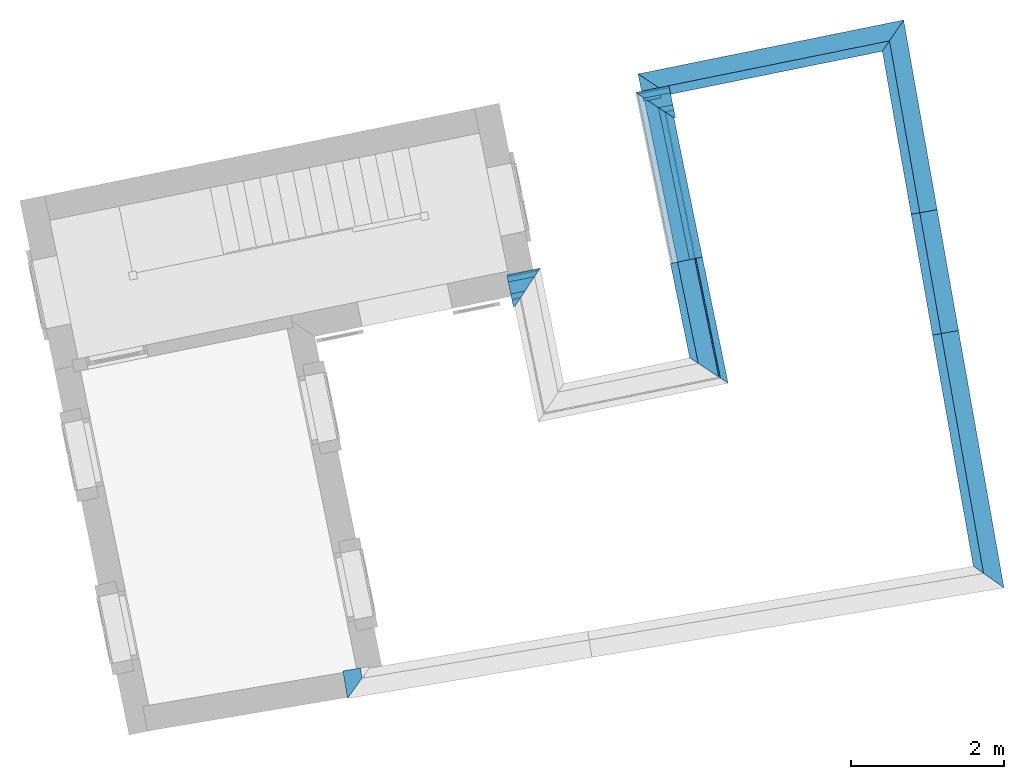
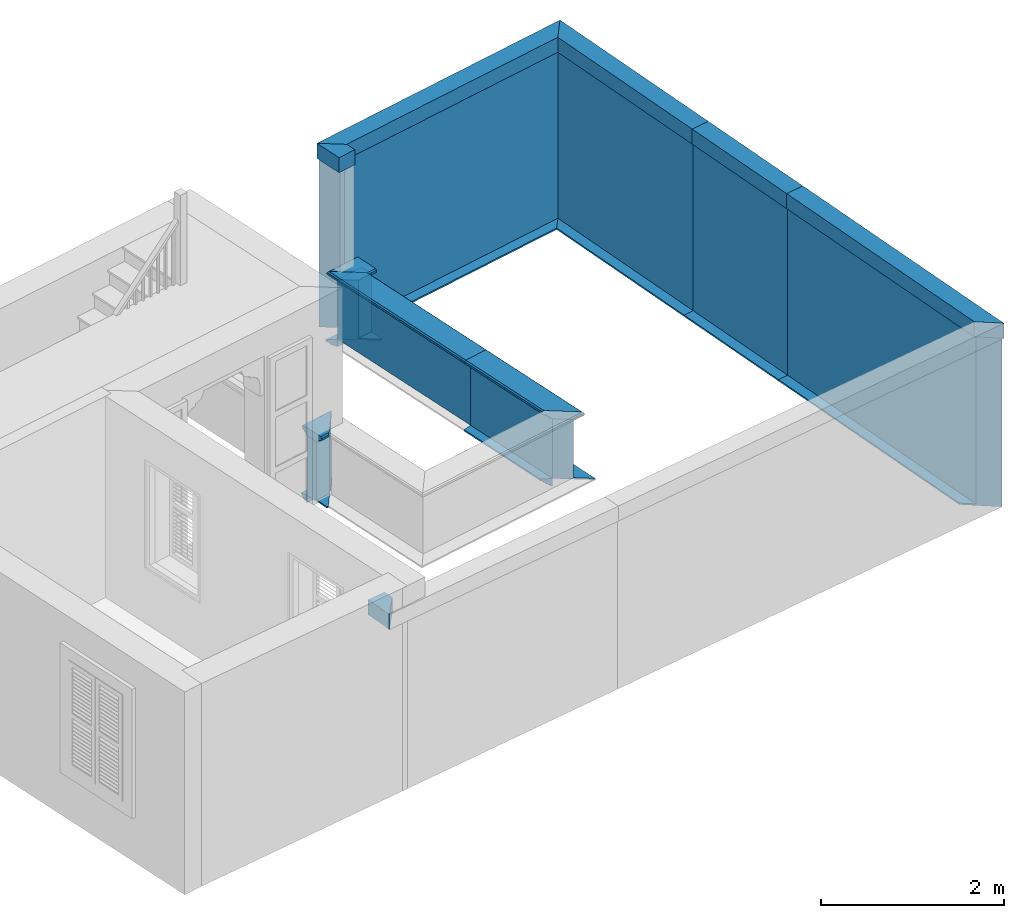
# One storey, part 7 of 7: 21 walls.
"""IFC4 building model written with IfcOpenShell, lengths in metres."""

from ifc_helpers import new_model, si_unit, frame, origin_with_axes, place, context, subcontext, project, spatial, polyline, outline, extrude, clip, halfspace, material_profile, profile_set, profile_usage, type_object, element, save


model = new_model("IFC4")

# Units and contexts
model_context = context("Model", 3, world=origin_with_axes())
body_context = subcontext(model_context, "Body", "Model", "MODEL_VIEW")
ifc_project = project(units=[si_unit("PLANEANGLEUNIT", "RADIAN"), si_unit("MASSUNIT", "GRAM", prefix="KILO"), si_unit("FORCEUNIT", "NEWTON", prefix="KILO"), si_unit("LENGTHUNIT", "METRE"), si_unit("AREAUNIT", "SQUARE_METRE"), si_unit("VOLUMEUNIT", "CUBIC_METRE")], contexts=[model_context, model_context])

# Site, building, storey
site_placement = place(None, origin_with_axes())
site = spatial("IfcSite", under=ifc_project, at=site_placement, Name="Site plot-7", CompositionType="ELEMENT")
building_placement = place(None, origin_with_axes())
building = spatial("IfcBuilding", under=site, at=building_placement, Name="Building plot-7", CompositionType="ELEMENT")
storey_placement = place(None, frame((0.0, 0.0, 3.0), z_axis=(0.0, 0.0, 1.0), x_axis=(1.0, 0.0, 0.0)))
storey = spatial("IfcBuildingStorey", under=building, at=storey_placement, Name="plot-7 1", CompositionType="ELEMENT", Elevation=3.0)

# Walls
ifc_material_profile_1 = material_profile(None, outline(polyline([(0.25, 0.0), (0.25, 2.245), (0.05, 2.245), (0.05, 0.02), (-0.08, 0.02), (-0.08, 0.0), (0.25, 0.0)])))
ifc_profile_set_1 = profile_set([ifc_material_profile_1])
ifc_profile_usage_1 = profile_usage(ifc_profile_set_1)
wall_type_1 = type_object("IfcWallType", Name="parapet party_0", PredefinedType="PARAPET", material=ifc_profile_set_1)
wall_1_placement = place(storey_placement, frame((-0.826350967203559, 10.4115691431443, 0.0), z_axis=(0.174013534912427, -0.984743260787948, 0.0), x_axis=(0.984743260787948, 0.174013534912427, 0.0)))
element("IfcWall", 1, at=wall_1_placement, inside=storey, type_object=wall_type_1, material=ifc_profile_usage_1, Name="parapet party_0", context=body_context, shape_type="Clipping", body=[
    clip(clip(extrude(outline(polyline([(0.25, 0.0), (0.25, 2.245), (0.05, 2.245), (0.05, 0.02), (-0.08, 0.02), (-0.08, 0.0), (0.25, 0.0)])), origin_with_axes(), (0.0, 0.0, 1.0), 5.14519232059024), halfspace(frame((0.0, 0.0, 4.14519232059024), z_axis=(0.709871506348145, 0.0, -0.704331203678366), x_axis=(0.0, 1.0, 0.0)), True)), halfspace(frame((0.0, 0.0, 1.0), z_axis=(-7.27366154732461e-16, 0.0, -1.0), x_axis=(0.0, 1.0, 0.0)), False)),
])
ifc_profile_usage_2 = profile_usage(ifc_profile_set_1)
wall_2_placement = place(storey_placement, frame((-1.10519241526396, 11.9895339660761, 0.0), z_axis=(0.174013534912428, -0.984743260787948, 0.0), x_axis=(0.984743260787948, 0.174013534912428, 0.0)))
element("IfcWall", 2, at=wall_2_placement, inside=storey, type_object=wall_type_1, material=ifc_profile_usage_2, Name="parapet party_0", context=body_context, shape_type="Clipping", body=[
    clip(clip(extrude(outline(polyline([(0.25, 0.0), (0.25, 2.245), (0.05, 2.245), (0.05, 0.02), (-0.08, 0.02), (-0.08, 0.0), (0.25, 0.0)])), origin_with_axes(), (0.0, 0.0, 1.0), 3.60241241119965), halfspace(frame((0.0, 0.0, 2.60241241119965), z_axis=(3.82856869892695e-16, 0.0, -1.0), x_axis=(0.0, 1.0, 0.0)), True)), halfspace(frame((0.0, 0.0, 1.0), z_axis=(3.82856869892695e-16, 0.0, -1.0), x_axis=(0.0, 1.0, 0.0)), False)),
])
ifc_profile_usage_3 = profile_usage(ifc_profile_set_1)
wall_3_placement = place(storey_placement, frame((-1.49557328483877, 14.1987008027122, 0.0), z_axis=(0.174013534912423, -0.984743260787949, 0.0), x_axis=(0.984743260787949, 0.174013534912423, 0.0)))
element("IfcWall", 3, at=wall_3_placement, inside=storey, type_object=wall_type_1, material=ifc_profile_usage_3, Name="parapet party_0", context=body_context, shape_type="Clipping", body=[
    clip(clip(extrude(outline(polyline([(0.25, 0.0), (0.25, 2.245), (0.05, 2.245), (0.05, 0.02), (-0.08, 0.02), (-0.08, 0.0), (0.25, 0.0)])), origin_with_axes(), (0.0, 0.0, 1.0), 4.24339370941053), halfspace(frame((0.0, 0.0, 3.24339370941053), z_axis=(-4.50212443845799e-15, 0.0, -1.0), x_axis=(0.0, 1.0, 0.0)), True)), halfspace(frame((0.0, 0.0, 1.0), z_axis=(-0.716056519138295, 0.0, -0.698042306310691), x_axis=(0.0, 1.0, 0.0)), False)),
])
ifc_profile_usage_4 = profile_usage(ifc_profile_set_1)
wall_4_placement = place(storey_placement, frame((-5.24373142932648, 12.4173398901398, 0.0), z_axis=(0.979990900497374, 0.199042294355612, 0.0), x_axis=(-0.199042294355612, 0.979990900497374, 0.0)))
element("IfcWall", 4, at=wall_4_placement, inside=storey, type_object=wall_type_1, material=ifc_profile_usage_4, Name="parapet party_0", context=body_context, shape_type="Clipping", body=[
    clip(clip(extrude(outline(polyline([(0.25, 0.0), (0.25, 2.245), (0.05, 2.245), (0.05, 0.02), (-0.08, 0.02), (-0.08, 0.0), (0.25, 0.0)])), origin_with_axes(), (0.0, 0.0, 1.0), 5.002253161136), halfspace(frame((0.0, 0.0, 4.002253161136), z_axis=(0.716056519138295, 0.0, -0.698042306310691), x_axis=(0.0, 1.0, 0.0)), True)), halfspace(frame((0.0, 0.0, 1.0), z_axis=(-0.707106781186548, 0.0, -0.707106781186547), x_axis=(0.0, 1.0, 0.0)), False)),
])
ifc_material_profile_2 = material_profile(None, outline(polyline([(0.265, 2.245), (0.265, 2.445), (0.035, 2.445), (0.035, 2.245), (0.265, 2.245)])))
ifc_profile_set_2 = profile_set([ifc_material_profile_2])
ifc_profile_usage_5 = profile_usage(ifc_profile_set_2)
wall_type_2 = type_object("IfcWallType", Name="parapet party_1", PredefinedType="PARAPET", material=ifc_profile_set_2)
wall_5_placement = place(storey_placement, frame((-7.98636038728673, 3.98638596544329, 0.0), z_axis=(-0.166292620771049, 0.986076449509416, 0.0), x_axis=(-0.986076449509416, -0.166292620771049, 0.0)))
element("IfcWall", 5, at=wall_5_placement, inside=storey, type_object=wall_type_2, material=ifc_profile_usage_5, Name="parapet party_1", context=body_context, shape_type="Clipping", body=[
    clip(clip(extrude(outline(polyline([(0.265, 2.245), (0.265, 2.445), (0.035, 2.445), (0.035, 2.245), (0.265, 2.245)])), origin_with_axes(), (0.0, 0.0, 1.0), 2.1), halfspace(frame((0.0, 0.0, 1.1), z_axis=(-5.0532154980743e-16, 0.0, -1.0), x_axis=(0.0, 1.0, 0.0)), True)), halfspace(frame((0.0, 0.0, 1.0), z_axis=(-0.70710678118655, 0.0, -0.707106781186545), x_axis=(0.0, 1.0, 0.0)), False)),
])
ifc_profile_usage_6 = profile_usage(ifc_profile_set_2)
wall_6_placement = place(storey_placement, frame((-0.826350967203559, 10.4115691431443, 0.0), z_axis=(0.174013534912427, -0.984743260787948, 0.0), x_axis=(0.984743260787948, 0.174013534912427, 0.0)))
element("IfcWall", 6, at=wall_6_placement, inside=storey, type_object=wall_type_2, material=ifc_profile_usage_6, Name="parapet party_1", context=body_context, shape_type="Clipping", body=[
    clip(clip(extrude(outline(polyline([(0.265, 2.245), (0.265, 2.445), (0.035, 2.445), (0.035, 2.245), (0.265, 2.245)])), origin_with_axes(), (0.0, 0.0, 1.0), 5.14519232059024), halfspace(frame((0.0, 0.0, 4.14519232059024), z_axis=(0.709871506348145, 0.0, -0.704331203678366), x_axis=(0.0, 1.0, 0.0)), True)), halfspace(frame((0.0, 0.0, 1.0), z_axis=(-7.27366154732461e-16, 0.0, -1.0), x_axis=(0.0, 1.0, 0.0)), False)),
])
ifc_profile_usage_7 = profile_usage(ifc_profile_set_2)
wall_7_placement = place(storey_placement, frame((-1.10519241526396, 11.9895339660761, 0.0), z_axis=(0.174013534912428, -0.984743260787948, 0.0), x_axis=(0.984743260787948, 0.174013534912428, 0.0)))
element("IfcWall", 7, at=wall_7_placement, inside=storey, type_object=wall_type_2, material=ifc_profile_usage_7, Name="parapet party_1", context=body_context, shape_type="Clipping", body=[
    clip(clip(extrude(outline(polyline([(0.265, 2.245), (0.265, 2.445), (0.035, 2.445), (0.035, 2.245), (0.265, 2.245)])), origin_with_axes(), (0.0, 0.0, 1.0), 3.60241241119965), halfspace(frame((0.0, 0.0, 2.60241241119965), z_axis=(3.82856869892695e-16, 0.0, -1.0), x_axis=(0.0, 1.0, 0.0)), True)), halfspace(frame((0.0, 0.0, 1.0), z_axis=(3.82856869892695e-16, 0.0, -1.0), x_axis=(0.0, 1.0, 0.0)), False)),
])
ifc_profile_usage_8 = profile_usage(ifc_profile_set_2)
wall_8_placement = place(storey_placement, frame((-1.49557328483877, 14.1987008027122, 0.0), z_axis=(0.174013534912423, -0.984743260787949, 0.0), x_axis=(0.984743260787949, 0.174013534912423, 0.0)))
element("IfcWall", 8, at=wall_8_placement, inside=storey, type_object=wall_type_2, material=ifc_profile_usage_8, Name="parapet party_1", context=body_context, shape_type="Clipping", body=[
    clip(clip(extrude(outline(polyline([(0.265, 2.245), (0.265, 2.445), (0.035, 2.445), (0.035, 2.245), (0.265, 2.245)])), origin_with_axes(), (0.0, 0.0, 1.0), 4.24339370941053), halfspace(frame((0.0, 0.0, 3.24339370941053), z_axis=(-4.50212443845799e-15, 0.0, -1.0), x_axis=(0.0, 1.0, 0.0)), True)), halfspace(frame((0.0, 0.0, 1.0), z_axis=(-0.716056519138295, 0.0, -0.698042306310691), x_axis=(0.0, 1.0, 0.0)), False)),
])
ifc_profile_usage_9 = profile_usage(ifc_profile_set_2)
wall_9_placement = place(storey_placement, frame((-5.24373142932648, 12.4173398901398, 0.0), z_axis=(0.979990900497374, 0.199042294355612, 0.0), x_axis=(-0.199042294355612, 0.979990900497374, 0.0)))
element("IfcWall", 9, at=wall_9_placement, inside=storey, type_object=wall_type_2, material=ifc_profile_usage_9, Name="parapet party_1", context=body_context, shape_type="Clipping", body=[
    clip(clip(extrude(outline(polyline([(0.265, 2.245), (0.265, 2.445), (0.035, 2.445), (0.035, 2.245), (0.265, 2.245)])), origin_with_axes(), (0.0, 0.0, 1.0), 5.002253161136), halfspace(frame((0.0, 0.0, 4.002253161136), z_axis=(0.716056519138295, 0.0, -0.698042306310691), x_axis=(0.0, 1.0, 0.0)), True)), halfspace(frame((0.0, 0.0, 1.0), z_axis=(-0.707106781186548, 0.0, -0.707106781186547), x_axis=(0.0, 1.0, 0.0)), False)),
])
ifc_profile_usage_10 = profile_usage(ifc_profile_set_2)
wall_10_placement = place(storey_placement, frame((-4.04479400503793, 11.5383921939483, 0.0), z_axis=(-0.199042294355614, 0.979990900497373, 0.0), x_axis=(-0.979990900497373, -0.199042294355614, 0.0)))
element("IfcWall", 10, at=wall_10_placement, inside=storey, type_object=wall_type_2, material=ifc_profile_usage_10, Name="parapet party_1", context=body_context, shape_type="Clipping", body=[
    clip(clip(extrude(outline(polyline([(0.265, 2.245), (0.265, 2.445), (0.035, 2.445), (0.035, 2.245), (0.265, 2.245)])), origin_with_axes(), (0.0, 0.0, 1.0), 2.1), halfspace(frame((0.0, 0.0, 1.1), z_axis=(0.707106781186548, 0.0, -0.707106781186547), x_axis=(0.0, 1.0, 0.0)), True)), halfspace(frame((0.0, 0.0, 1.0), z_axis=(-2.83276944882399e-16, 0.0, -1.0), x_axis=(0.0, 1.0, 0.0)), False)),
])
ifc_material_profile_3 = material_profile(None, outline(polyline([(0.25, 0.0), (0.25, 0.795), (0.09, 0.795), (0.09, 0.02), (-0.08, 0.02), (-0.08, 0.0), (0.25, 0.0)])))
ifc_profile_set_3 = profile_set([ifc_material_profile_3])
ifc_profile_usage_11 = profile_usage(ifc_profile_set_3)
wall_type_3 = type_object("IfcWallType", Name="parapet internal_0", PredefinedType="PARAPET", material=ifc_profile_set_3)
wall_11_placement = place(storey_placement, frame((-5.18156546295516, 12.112698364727, 0.0), z_axis=(0.979807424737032, 0.199943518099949, 0.0), x_axis=(-0.199943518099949, 0.979807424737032, 0.0)))
element("IfcWall", 11, at=wall_11_placement, inside=storey, type_object=wall_type_3, material=ifc_profile_usage_11, Name="parapet internal_0", context=body_context, shape_type="Clipping", body=[
    clip(clip(extrude(outline(polyline([(0.25, 0.0), (0.25, 0.795), (0.09, 0.795), (0.09, 0.02), (-0.08, 0.02), (-0.08, 0.0), (0.25, 0.0)])), origin_with_axes(), (0.0, 0.0, 1.0), 2.1), halfspace(frame((0.0, 0.0, 1.1), z_axis=(-5.0532154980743e-16, 0.0, -1.0), x_axis=(0.0, 1.0, 0.0)), True)), halfspace(frame((0.0, 0.0, 1.0), z_axis=(-0.707106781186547, 0.0, -0.707106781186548), x_axis=(0.0, 1.0, 0.0)), False)),
])
ifc_profile_usage_12 = profile_usage(ifc_profile_set_3)
wall_12_placement = place(storey_placement, frame((-3.61484915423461, 9.43654123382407, 0.0), z_axis=(-0.199943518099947, 0.979807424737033, 0.0), x_axis=(-0.979807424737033, -0.199943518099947, 0.0)))
element("IfcWall", 12, at=wall_12_placement, inside=storey, type_object=wall_type_3, material=ifc_profile_usage_12, Name="parapet internal_0", context=body_context, shape_type="Clipping", body=[
    clip(clip(extrude(outline(polyline([(0.25, 0.0), (0.25, 0.795), (0.09, 0.795), (0.09, 0.02), (-0.08, 0.02), (-0.08, 0.0), (0.25, 0.0)])), origin_with_axes(), (0.0, 0.0, 1.0), 3.93537339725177), halfspace(frame((0.0, 0.0, 2.93537339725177), z_axis=(0.707106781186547, 0.0, -0.707106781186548), x_axis=(0.0, 1.0, 0.0)), True)), halfspace(frame((0.0, 0.0, 1.0), z_axis=(-1.17145536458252e-15, 0.0, -1.0), x_axis=(0.0, 1.0, 0.0)), False)),
])
ifc_profile_usage_13 = profile_usage(ifc_profile_set_3)
wall_13_placement = place(storey_placement, frame((-3.29456879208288, 7.86703260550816, 0.0), z_axis=(-0.199943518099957, 0.979807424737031, 0.0), x_axis=(-0.979807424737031, -0.199943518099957, 0.0)))
element("IfcWall", 13, at=wall_13_placement, inside=storey, type_object=wall_type_3, material=ifc_profile_usage_13, Name="parapet internal_0", context=body_context, shape_type="Clipping", body=[
    clip(clip(extrude(outline(polyline([(0.25, 0.0), (0.25, 0.795), (0.09, 0.795), (0.09, 0.02), (-0.08, 0.02), (-0.08, 0.0), (0.25, 0.0)])), origin_with_axes(), (0.0, 0.0, 1.0), 3.60185418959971), halfspace(frame((0.0, 0.0, 2.60185418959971), z_axis=(8.37646264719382e-15, 0.0, -1.0), x_axis=(0.0, 1.0, 0.0)), True)), halfspace(frame((0.0, 0.0, 1.0), z_axis=(0.707106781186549, 0.0, -0.707106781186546), x_axis=(0.0, 1.0, 0.0)), False)),
])
ifc_profile_usage_14 = profile_usage(ifc_profile_set_3)
wall_14_placement = place(storey_placement, frame((-7.20022648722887, 9.66112081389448, 0.0), z_axis=(0.979807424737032, 0.199943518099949, 0.0), x_axis=(-0.199943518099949, 0.979807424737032, 0.0)))
element("IfcWall", 14, at=wall_14_placement, inside=storey, type_object=wall_type_3, material=ifc_profile_usage_14, Name="parapet internal_0", context=body_context, shape_type="Clipping", body=[
    clip(clip(extrude(outline(polyline([(0.25, 0.0), (0.25, 0.795), (0.09, 0.795), (0.09, 0.02), (-0.08, 0.02), (-0.08, 0.0), (0.25, 0.0)])), origin_with_axes(), (0.0, 0.0, 1.0), 2.1), halfspace(frame((0.0, 0.0, 1.1), z_axis=(0.707106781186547, 0.0, -0.707106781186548), x_axis=(0.0, 1.0, 0.0)), True)), halfspace(frame((0.0, 0.0, 1.0), z_axis=(-5.0532154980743e-16, 0.0, -1.0), x_axis=(0.0, 1.0, 0.0)), False)),
])
ifc_material_profile_4 = material_profile(None, outline(polyline([(0.265, 0.795), (0.268, 0.807), (0.274, 0.816), (0.283, 0.822), (0.295, 0.825), (0.295, 0.84), (0.305, 0.84), (0.317, 0.842), (0.326, 0.849), (0.333, 0.858), (0.335, 0.87), (0.333, 0.882), (0.326, 0.891), (0.317, 0.898), (0.305, 0.9), (0.035, 0.9), (0.023, 0.898), (0.014, 0.891), (0.007, 0.882), (0.005, 0.87), (0.007, 0.858), (0.014, 0.849), (0.023, 0.842), (0.035, 0.84), (0.045, 0.84), (0.045, 0.825), (0.057, 0.822), (0.066, 0.816), (0.072, 0.807), (0.075, 0.795), (0.265, 0.795)])))
ifc_profile_set_4 = profile_set([ifc_material_profile_4])
ifc_profile_usage_15 = profile_usage(ifc_profile_set_4)
wall_type_4 = type_object("IfcWallType", Name="parapet internal_1", PredefinedType="PARAPET", material=ifc_profile_set_4)
wall_15_placement = place(storey_placement, frame((-5.18156546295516, 12.112698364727, 0.0), z_axis=(0.979807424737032, 0.199943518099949, 0.0), x_axis=(-0.199943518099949, 0.979807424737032, 0.0)))
element("IfcWall", 15, at=wall_15_placement, inside=storey, type_object=wall_type_4, material=ifc_profile_usage_15, Name="parapet internal_1", context=body_context, shape_type="Clipping", body=[
    clip(clip(extrude(outline(polyline([(0.265, 0.795), (0.268, 0.807), (0.274, 0.816), (0.283, 0.822), (0.295, 0.825), (0.295, 0.84), (0.305, 0.84), (0.317, 0.842), (0.326, 0.849), (0.333, 0.858), (0.335, 0.87), (0.333, 0.882), (0.326, 0.891), (0.317, 0.898), (0.305, 0.9), (0.035, 0.9), (0.023, 0.898), (0.014, 0.891), (0.007, 0.882), (0.005, 0.87), (0.007, 0.858), (0.014, 0.849), (0.023, 0.842), (0.035, 0.84), (0.045, 0.84), (0.045, 0.825), (0.057, 0.822), (0.066, 0.816), (0.072, 0.807), (0.075, 0.795), (0.265, 0.795)])), origin_with_axes(), (0.0, 0.0, 1.0), 2.1), halfspace(frame((0.0, 0.0, 1.1), z_axis=(-5.0532154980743e-16, 0.0, -1.0), x_axis=(0.0, 1.0, 0.0)), True)), halfspace(frame((0.0, 0.0, 1.0), z_axis=(-0.707106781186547, 0.0, -0.707106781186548), x_axis=(0.0, 1.0, 0.0)), False)),
])
ifc_profile_usage_16 = profile_usage(ifc_profile_set_4)
wall_16_placement = place(storey_placement, frame((-3.61484915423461, 9.43654123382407, 0.0), z_axis=(-0.199943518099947, 0.979807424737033, 0.0), x_axis=(-0.979807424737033, -0.199943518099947, 0.0)))
element("IfcWall", 16, at=wall_16_placement, inside=storey, type_object=wall_type_4, material=ifc_profile_usage_16, Name="parapet internal_1", context=body_context, shape_type="Clipping", body=[
    clip(clip(extrude(outline(polyline([(0.265, 0.795), (0.268, 0.807), (0.274, 0.816), (0.283, 0.822), (0.295, 0.825), (0.295, 0.84), (0.305, 0.84), (0.317, 0.842), (0.326, 0.849), (0.333, 0.858), (0.335, 0.87), (0.333, 0.882), (0.326, 0.891), (0.317, 0.898), (0.305, 0.9), (0.035, 0.9), (0.023, 0.898), (0.014, 0.891), (0.007, 0.882), (0.005, 0.87), (0.007, 0.858), (0.014, 0.849), (0.023, 0.842), (0.035, 0.84), (0.045, 0.84), (0.045, 0.825), (0.057, 0.822), (0.066, 0.816), (0.072, 0.807), (0.075, 0.795), (0.265, 0.795)])), origin_with_axes(), (0.0, 0.0, 1.0), 3.93537339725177), halfspace(frame((0.0, 0.0, 2.93537339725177), z_axis=(0.707106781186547, 0.0, -0.707106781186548), x_axis=(0.0, 1.0, 0.0)), True)), halfspace(frame((0.0, 0.0, 1.0), z_axis=(-1.17145536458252e-15, 0.0, -1.0), x_axis=(0.0, 1.0, 0.0)), False)),
])
ifc_profile_usage_17 = profile_usage(ifc_profile_set_4)
wall_17_placement = place(storey_placement, frame((-3.29456879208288, 7.86703260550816, 0.0), z_axis=(-0.199943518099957, 0.979807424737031, 0.0), x_axis=(-0.979807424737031, -0.199943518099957, 0.0)))
element("IfcWall", 17, at=wall_17_placement, inside=storey, type_object=wall_type_4, material=ifc_profile_usage_17, Name="parapet internal_1", context=body_context, shape_type="Clipping", body=[
    clip(clip(extrude(outline(polyline([(0.265, 0.795), (0.268, 0.807), (0.274, 0.816), (0.283, 0.822), (0.295, 0.825), (0.295, 0.84), (0.305, 0.84), (0.317, 0.842), (0.326, 0.849), (0.333, 0.858), (0.335, 0.87), (0.333, 0.882), (0.326, 0.891), (0.317, 0.898), (0.305, 0.9), (0.035, 0.9), (0.023, 0.898), (0.014, 0.891), (0.007, 0.882), (0.005, 0.87), (0.007, 0.858), (0.014, 0.849), (0.023, 0.842), (0.035, 0.84), (0.045, 0.84), (0.045, 0.825), (0.057, 0.822), (0.066, 0.816), (0.072, 0.807), (0.075, 0.795), (0.265, 0.795)])), origin_with_axes(), (0.0, 0.0, 1.0), 3.60185418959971), halfspace(frame((0.0, 0.0, 2.60185418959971), z_axis=(8.37646264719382e-15, 0.0, -1.0), x_axis=(0.0, 1.0, 0.0)), True)), halfspace(frame((0.0, 0.0, 1.0), z_axis=(0.707106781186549, 0.0, -0.707106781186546), x_axis=(0.0, 1.0, 0.0)), False)),
])
ifc_profile_usage_18 = profile_usage(ifc_profile_set_4)
wall_18_placement = place(storey_placement, frame((-7.20022648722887, 9.66112081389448, 0.0), z_axis=(0.979807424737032, 0.199943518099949, 0.0), x_axis=(-0.199943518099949, 0.979807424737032, 0.0)))
element("IfcWall", 18, at=wall_18_placement, inside=storey, type_object=wall_type_4, material=ifc_profile_usage_18, Name="parapet internal_1", context=body_context, shape_type="Clipping", body=[
    clip(clip(extrude(outline(polyline([(0.265, 0.795), (0.268, 0.807), (0.274, 0.816), (0.283, 0.822), (0.295, 0.825), (0.295, 0.84), (0.305, 0.84), (0.317, 0.842), (0.326, 0.849), (0.333, 0.858), (0.335, 0.87), (0.333, 0.882), (0.326, 0.891), (0.317, 0.898), (0.305, 0.9), (0.035, 0.9), (0.023, 0.898), (0.014, 0.891), (0.007, 0.882), (0.005, 0.87), (0.007, 0.858), (0.014, 0.849), (0.023, 0.842), (0.035, 0.84), (0.045, 0.84), (0.045, 0.825), (0.057, 0.822), (0.066, 0.816), (0.072, 0.807), (0.075, 0.795), (0.265, 0.795)])), origin_with_axes(), (0.0, 0.0, 1.0), 2.1), halfspace(frame((0.0, 0.0, 1.1), z_axis=(0.707106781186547, 0.0, -0.707106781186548), x_axis=(0.0, 1.0, 0.0)), True)), halfspace(frame((0.0, 0.0, 1.0), z_axis=(-5.0532154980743e-16, 0.0, -1.0), x_axis=(0.0, 1.0, 0.0)), False)),
])
ifc_material_profile_5 = material_profile(None, outline(polyline([(0.25, -0.1), (0.265, -0.1), (0.265, -0.085), (0.278, -0.084), (0.289, -0.081), (0.301, -0.074), (0.309, -0.065), (0.315, -0.055), (0.324, -0.044), (0.334, -0.038), (0.345, -0.035), (0.345, -0.015), (0.25, 0.0), (0.25, -0.1)])))
ifc_profile_set_5 = profile_set([ifc_material_profile_5])
ifc_profile_usage_19 = profile_usage(ifc_profile_set_5)
wall_type_5 = type_object("IfcWallType", Name="parapet internal_2", PredefinedType="PARAPET", material=ifc_profile_set_5)
wall_19_placement = place(storey_placement, frame((-5.18156546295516, 12.112698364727, 0.0), z_axis=(0.979807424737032, 0.199943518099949, 0.0), x_axis=(-0.199943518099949, 0.979807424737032, 0.0)))
element("IfcWall", 19, at=wall_19_placement, inside=storey, type_object=wall_type_5, material=ifc_profile_usage_19, Name="parapet internal_2", context=body_context, shape_type="Clipping", body=[
    clip(clip(extrude(outline(polyline([(0.25, -0.1), (0.265, -0.1), (0.265, -0.085), (0.278, -0.084), (0.289, -0.081), (0.301, -0.074), (0.309, -0.065), (0.315, -0.055), (0.324, -0.044), (0.334, -0.038), (0.345, -0.035), (0.345, -0.015), (0.25, 0.0), (0.25, -0.1)])), origin_with_axes(), (0.0, 0.0, 1.0), 2.1), halfspace(frame((0.0, 0.0, 1.1), z_axis=(-5.0532154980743e-16, 0.0, -1.0), x_axis=(0.0, 1.0, 0.0)), True)), halfspace(frame((0.0, 0.0, 1.0), z_axis=(-0.707106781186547, 0.0, -0.707106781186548), x_axis=(0.0, 1.0, 0.0)), False)),
])
ifc_profile_usage_20 = profile_usage(ifc_profile_set_5)
wall_20_placement = place(storey_placement, frame((-3.29456879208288, 7.86703260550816, 0.0), z_axis=(-0.199943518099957, 0.979807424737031, 0.0), x_axis=(-0.979807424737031, -0.199943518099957, 0.0)))
element("IfcWall", 20, at=wall_20_placement, inside=storey, type_object=wall_type_5, material=ifc_profile_usage_20, Name="parapet internal_2", context=body_context, shape_type="Clipping", body=[
    clip(clip(extrude(outline(polyline([(0.25, -0.1), (0.265, -0.1), (0.265, -0.085), (0.278, -0.084), (0.289, -0.081), (0.301, -0.074), (0.309, -0.065), (0.315, -0.055), (0.324, -0.044), (0.334, -0.038), (0.345, -0.035), (0.345, -0.015), (0.25, 0.0), (0.25, -0.1)])), origin_with_axes(), (0.0, 0.0, 1.0), 3.60185418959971), halfspace(frame((0.0, 0.0, 2.60185418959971), z_axis=(8.37646264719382e-15, 0.0, -1.0), x_axis=(0.0, 1.0, 0.0)), True)), halfspace(frame((0.0, 0.0, 1.0), z_axis=(0.707106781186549, 0.0, -0.707106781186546), x_axis=(0.0, 1.0, 0.0)), False)),
])
ifc_profile_usage_21 = profile_usage(ifc_profile_set_5)
wall_21_placement = place(storey_placement, frame((-7.20022648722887, 9.66112081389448, 0.0), z_axis=(0.979807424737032, 0.199943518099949, 0.0), x_axis=(-0.199943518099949, 0.979807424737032, 0.0)))
element("IfcWall", 21, at=wall_21_placement, inside=storey, type_object=wall_type_5, material=ifc_profile_usage_21, Name="parapet internal_2", context=body_context, shape_type="Clipping", body=[
    clip(clip(extrude(outline(polyline([(0.25, -0.1), (0.265, -0.1), (0.265, -0.085), (0.278, -0.084), (0.289, -0.081), (0.301, -0.074), (0.309, -0.065), (0.315, -0.055), (0.324, -0.044), (0.334, -0.038), (0.345, -0.035), (0.345, -0.015), (0.25, 0.0), (0.25, -0.1)])), origin_with_axes(), (0.0, 0.0, 1.0), 2.1), halfspace(frame((0.0, 0.0, 1.1), z_axis=(0.707106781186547, 0.0, -0.707106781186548), x_axis=(0.0, 1.0, 0.0)), True)), halfspace(frame((0.0, 0.0, 1.0), z_axis=(-5.0532154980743e-16, 0.0, -1.0), x_axis=(0.0, 1.0, 0.0)), False)),
])

save(model, "model.ifc")
